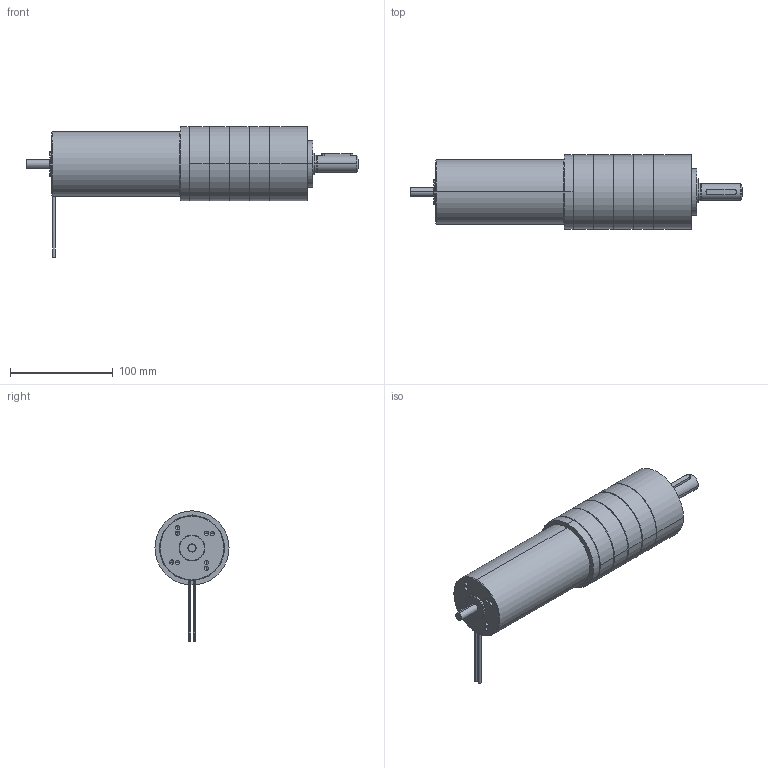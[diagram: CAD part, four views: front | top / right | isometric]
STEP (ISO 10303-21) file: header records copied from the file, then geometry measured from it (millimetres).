
FILE_DESCRIPTION (( 'STEP AP214' ), '1' );
FILE_NAME ('1-17-063-4xx_PM72_4st.STEP', '2020-11-23T09:28:20', ( '' ), ( '' ), 'SwSTEP 2.0', 'SolidWorks 2019', '' );
FILE_SCHEMA (( 'AUTOMOTIVE_DESIGN' ));
Length unit declared in the file: millimetre
Products named in the file (4): Motor bulher 1.17.063.402 ; 7200738_Part; 1-17-063-4xx_PM72_4st; PM72-4etages
Assembly tree (3 placements, depth 2):
  1-17-063-4xx_PM72_4st
    Motor bulher 1.17.063.402 
    7200738_Part
    PM72-4etages
Bounding box: 322.6 x 72 x 126.55 mm (x, y, z)
Volume: 432736.3 mm3; surface area: 193018.4 mm2
Topology: 2 solids, 40 shells, 1463 faces, 3907 edges, 2526 vertices
Faces by surface type: cylinder 725, plane 541, cone 139, torus 58
Entity records: 63590 total; most frequent: CARTESIAN_POINT 9765, DIRECTION 8416, ORIENTED_EDGE 7694, EDGE_CURVE 3865, AXIS2_PLACEMENT_3D 3125, VERTEX_POINT 2526, VECTOR 2166, LINE 2166
